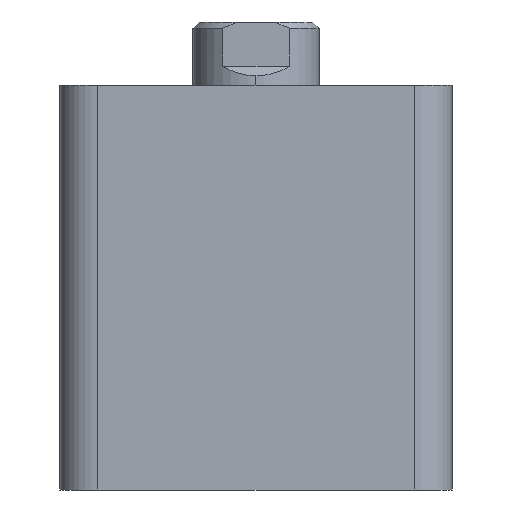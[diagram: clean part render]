
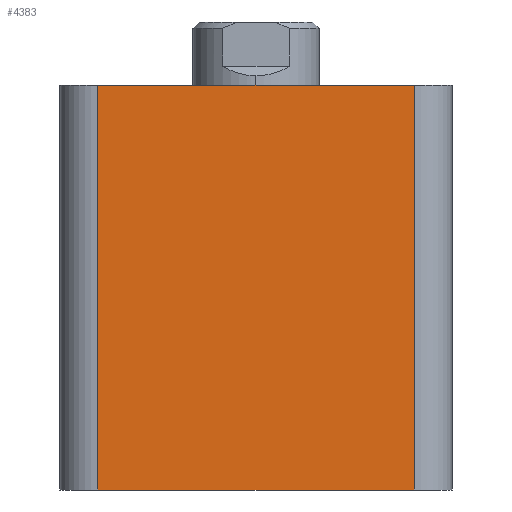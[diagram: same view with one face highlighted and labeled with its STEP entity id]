
A CAD part, left-side view. The second image highlights one B-rep face of the part: STEP entity #4383.
In plain terms, the highlighted planar face has unit normal (-1, 0, 0).
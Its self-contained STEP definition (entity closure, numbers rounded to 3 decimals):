
#152 = DIRECTION ( 'NONE',  ( 0., 0., -1. ) ) ;
#154 = CARTESIAN_POINT ( 'NONE',  ( -31., 25., 64. ) ) ;
#474 = CARTESIAN_POINT ( 'NONE',  ( -31., -25., 0. ) ) ;
#505 = CARTESIAN_POINT ( 'NONE',  ( -31., 25., 0. ) ) ;
#606 = DIRECTION ( 'NONE',  ( 0., -1., 0. ) ) ;
#850 = DIRECTION ( 'NONE',  ( 0., -1., 0. ) ) ;
#863 = CARTESIAN_POINT ( 'NONE',  ( -31., 31., 0. ) ) ;
#1073 = CARTESIAN_POINT ( 'NONE',  ( -31., 31., 64. ) ) ;
#1080 = PLANE ( 'NONE',  #2594 ) ;
#1082 = DIRECTION ( 'NONE',  ( 1., 0., 0. ) ) ;
#1083 = DIRECTION ( 'NONE',  ( 0., 0., -1. ) ) ;
#1807 = VERTEX_POINT ( 'NONE', #1841 ) ;
#1810 = VERTEX_POINT ( 'NONE', #1836 ) ;
#1836 = CARTESIAN_POINT ( 'NONE',  ( -31., -25., 64. ) ) ;
#1841 = CARTESIAN_POINT ( 'NONE',  ( -31., 25., 64. ) ) ;
#1982 = CARTESIAN_POINT ( 'NONE',  ( -31., 31., 64. ) ) ;
#1994 = CARTESIAN_POINT ( 'NONE',  ( -31., -25., 64. ) ) ;
#2003 = DIRECTION ( 'NONE',  ( 0., 0., 1. ) ) ;
#2038 = VECTOR ( 'NONE', #850, 1000. ) ;
#2039 = LINE ( 'NONE', #863, #2038 ) ;
#2594 = AXIS2_PLACEMENT_3D ( 'NONE', #1073, #1082, #1083 ) ;
#2780 = EDGE_CURVE ( 'NONE', #5042, #1810, #2998, .T. ) ;
#2784 = EDGE_CURVE ( 'NONE', #1807, #5073, #2989, .T. ) ;
#2801 = EDGE_CURVE ( 'NONE', #1807, #1810, #2964, .T. ) ;
#2872 = EDGE_CURVE ( 'NONE', #5073, #5042, #2039, .T. ) ;
#2962 = VECTOR ( 'NONE', #606, 1000. ) ;
#2964 = LINE ( 'NONE', #1982, #2962 ) ;
#2986 = VECTOR ( 'NONE', #152, 1000. ) ;
#2989 = LINE ( 'NONE', #154, #2986 ) ;
#2995 = VECTOR ( 'NONE', #2003, 1000. ) ;
#2998 = LINE ( 'NONE', #1994, #2995 ) ;
#4028 = FACE_OUTER_BOUND ( 'NONE', #4799, .T. ) ;
#4383 = ADVANCED_FACE ( 'NONE', ( #4028 ), #1080, .F. ) ;
#4664 = ORIENTED_EDGE ( 'NONE', *, *, #2784, .T. ) ;
#4665 = ORIENTED_EDGE ( 'NONE', *, *, #2801, .F. ) ;
#4666 = ORIENTED_EDGE ( 'NONE', *, *, #2780, .T. ) ;
#4667 = ORIENTED_EDGE ( 'NONE', *, *, #2872, .T. ) ;
#4799 = EDGE_LOOP ( 'NONE', ( #4667, #4666, #4665, #4664 ) ) ;
#5042 = VERTEX_POINT ( 'NONE', #474 ) ;
#5073 = VERTEX_POINT ( 'NONE', #505 ) ;
